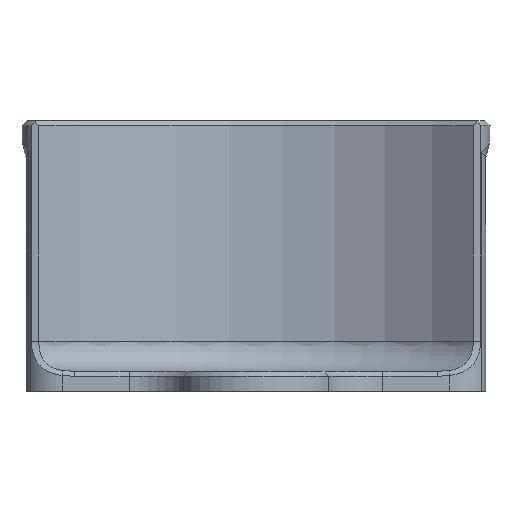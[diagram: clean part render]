
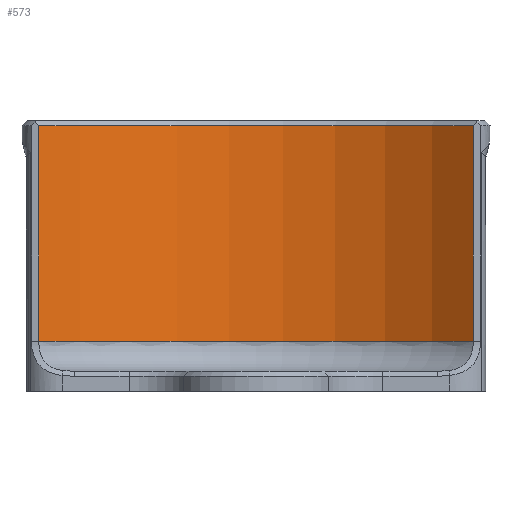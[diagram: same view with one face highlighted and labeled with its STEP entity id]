
A CAD part, front view. The second image highlights one B-rep face of the part: STEP entity #573.
In plain terms, the highlighted cylindrical face has radius 63 mm (diameter 126 mm), a partial arc.
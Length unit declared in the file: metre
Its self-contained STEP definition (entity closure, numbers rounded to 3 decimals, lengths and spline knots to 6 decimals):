
#32=CYLINDRICAL_SURFACE('',#640,0.063);
#82=LINE('',#925,#110);
#83=LINE('',#929,#111);
#110=VECTOR('',#747,1.);
#111=VECTOR('',#750,1.);
#164=ORIENTED_EDGE('',*,*,#335,.T.);
#165=ORIENTED_EDGE('',*,*,#336,.T.);
#166=ORIENTED_EDGE('',*,*,#337,.T.);
#167=ORIENTED_EDGE('',*,*,#338,.T.);
#335=EDGE_CURVE('',#419,#420,#460,.F.);
#336=EDGE_CURVE('',#420,#421,#82,.F.);
#337=EDGE_CURVE('',#421,#422,#461,.T.);
#338=EDGE_CURVE('',#422,#419,#83,.T.);
#419=VERTEX_POINT('',#923);
#420=VERTEX_POINT('',#924);
#421=VERTEX_POINT('',#926);
#422=VERTEX_POINT('',#928);
#460=CIRCLE('',#641,0.063);
#461=CIRCLE('',#642,0.063);
#485=EDGE_LOOP('',(#164,#165,#166,#167));
#526=FACE_BOUND('',#485,.T.);
#573=ADVANCED_FACE('',(#526),#32,.F.);
#640=AXIS2_PLACEMENT_3D('',#921,#743,#744);
#641=AXIS2_PLACEMENT_3D('',#922,#745,#746);
#642=AXIS2_PLACEMENT_3D('',#927,#748,#749);
#743=DIRECTION('',(0.,0.,-1.));
#744=DIRECTION('',(-1.,0.,0.));
#745=DIRECTION('',(0.,0.,1.));
#746=DIRECTION('',(1.,0.,0.));
#747=DIRECTION('',(0.,0.,-1.));
#748=DIRECTION('',(0.,0.,1.));
#749=DIRECTION('',(1.,0.,0.));
#750=DIRECTION('',(0.,0.,-1.));
#921=CARTESIAN_POINT('',(0.,-0.043,0.05));
#922=CARTESIAN_POINT('',(0.,-0.043,0.01));
#923=CARTESIAN_POINT('',(-0.043316,0.002746,0.01));
#924=CARTESIAN_POINT('',(0.043316,0.002746,0.01));
#925=CARTESIAN_POINT('',(0.043316,0.002746,0.05));
#926=CARTESIAN_POINT('',(0.043316,0.002746,0.053));
#927=CARTESIAN_POINT('',(0.,-0.043,0.053));
#928=CARTESIAN_POINT('',(-0.043316,0.002746,0.053));
#929=CARTESIAN_POINT('',(-0.043316,0.002746,0.05));
